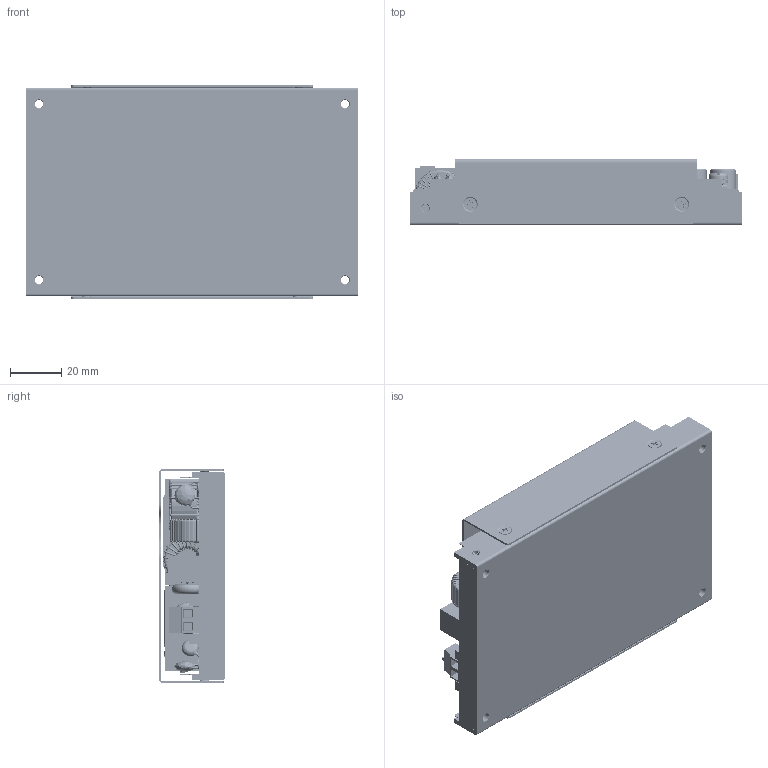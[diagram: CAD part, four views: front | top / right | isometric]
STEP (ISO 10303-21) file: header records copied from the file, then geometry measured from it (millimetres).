
FILE_DESCRIPTION (( 'STEP AP214' ), '1' );
FILE_NAME ('LFM420S(M)XXXC.STEP', '2024-02-23T02:29:11', ( 'cincon' ), ( '' ), 'SwSTEP 2.0', 'SolidWorks 2020', '' );
FILE_SCHEMA (( 'AUTOMOTIVE_DESIGN' ));
Length unit declared in the file: millimetre
Products named in the file (1): LFM420S(M)XXXC
Bounding box: 129.4 x 25.7 x 83.52 mm (x, y, z)
Volume: 183271.4 mm3; surface area: 82915.3 mm2
Topology: 33 solids, 42 shells, 3121 faces, 8582 edges, 5257 vertices
Faces by surface type: cylinder 1462, plane 786, torus 684, bspline 113, cone 76
Entity records: 161738 total; most frequent: CARTESIAN_POINT 51015, ORIENTED_EDGE 16736, DIRECTION 15620, EDGE_CURVE 8368, AXIS2_PLACEMENT_3D 6209, VERTEX_POINT 5283, EDGE_LOOP 3277, VECTOR 3202
